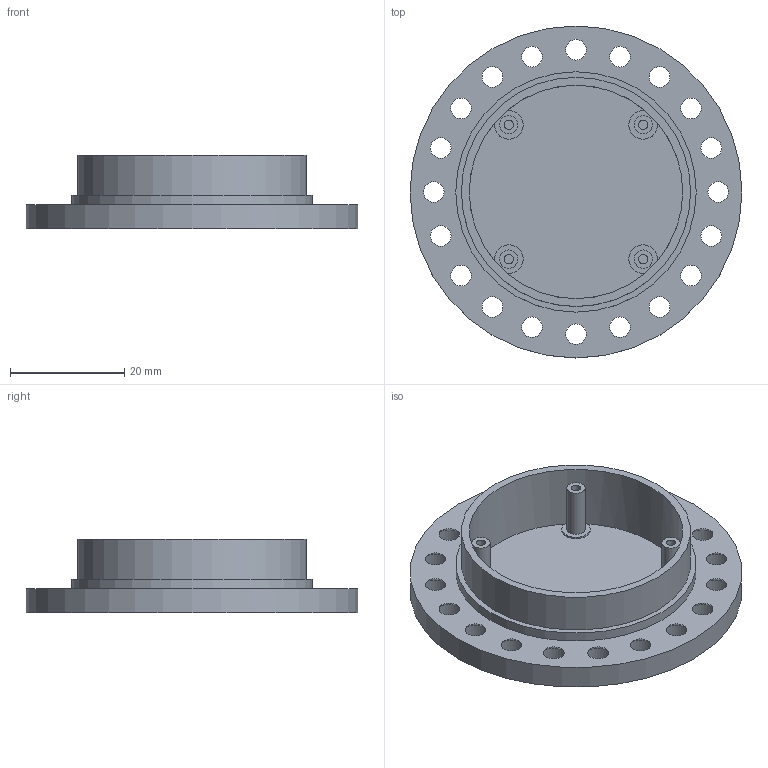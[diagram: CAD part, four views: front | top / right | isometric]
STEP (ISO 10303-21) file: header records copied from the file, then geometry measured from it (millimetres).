
FILE_DESCRIPTION(('Open CASCADE Model'),'2;1');
FILE_NAME('Open CASCADE Shape Model','2026-11-18T14:54:05',('Author'),( 'Open CASCADE'),'Open CASCADE STEP processor 7.9','Open CASCADE 7.9' ,'Unknown');
FILE_SCHEMA(('AUTOMOTIVE_DESIGN { 1 0 10303 214 1 1 1 1 }'));
Length unit declared in the file: millimetre
Products named in the file (1): Open CASCADE STEP translator 7.9 1
Bounding box: 58 x 58 x 12.9 mm (x, y, z)
Volume: 7459.7 mm3; surface area: 9948.9 mm2
Topology: 1 solids, 1 shells, 113 faces, 220 edges, 140 vertices
Faces by surface type: cone 40, plane 37, cylinder 36
Full cylindrical faces by diameter (mm): 1.6 x4, 3.2 x4, 6.4 x20, 37.3 x1, 40.05 x1, 42 x1, 58 x1
Entity records: 5937 total; most frequent: CARTESIAN_POINT 1068, DIRECTION 989, ORIENTED_EDGE 440, PCURVE 440, DEFINITIONAL_REPRESENTATION 440, LINE 384, VECTOR 384, AXIS2_PLACEMENT_3D 254
